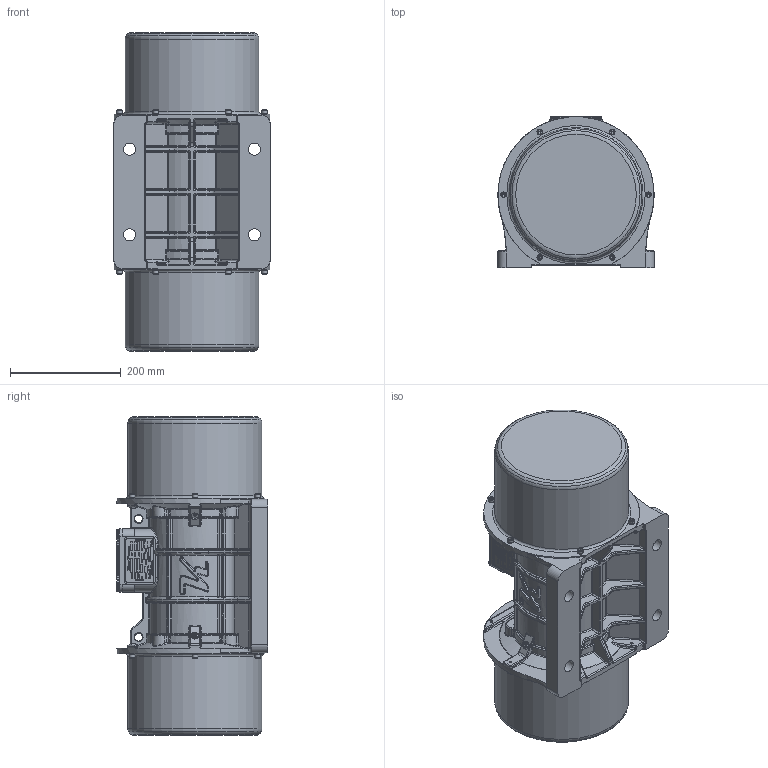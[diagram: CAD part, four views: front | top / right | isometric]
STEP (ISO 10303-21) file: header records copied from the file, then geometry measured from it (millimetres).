
FILE_DESCRIPTION(/* description */ (''),/* implementation_level */ '2;1');
FILE_NAME(/* name */ '6 NO B TAS.stp',/* time_stamp */ '2026-09-02T14:23:07+03:00',/* author */ ('PC'),/* organization */ (''),/* preprocessor_version */ 'ST-DEVELOPER v20.1',/* originating_system */ 'Autodesk Inventor 2026',/* authorisation */ '');
FILE_SCHEMA (('AUTOMOTIVE_DESIGN { 1 0 10303 214 3 1 1 }'));
Products named in the file (1): 6 NO B TAS
Bounding box: 282 x 273.5 x 575.5 mm (x, y, z)
Volume: 22736305.8 mm3; surface area: 823751.7 mm2
Topology: 1 solids, 33 shells, 5583 faces, 14614 edges, 9274 vertices
Faces by surface type: plane 2638, bspline 1441, cylinder 791, torus 399, sphere 174, cone 140
Full cylindrical faces by diameter (mm): 3 x2, 4.917 x20, 6 x12, 6.4 x12, 6.8 x12, 8.376 x8, 10 x16, 10.5 x4, 14 x7, 15 x1, 20 x1, 22 x5, 42 x4, 242 x2
Entity records: 218066 total; most frequent: CARTESIAN_POINT 86958, ORIENTED_EDGE 28960, DIRECTION 22488, EDGE_CURVE 14480, VERTEX_POINT 9274, LINE 8162, VECTOR 8162, AXIS2_PLACEMENT_3D 7163
